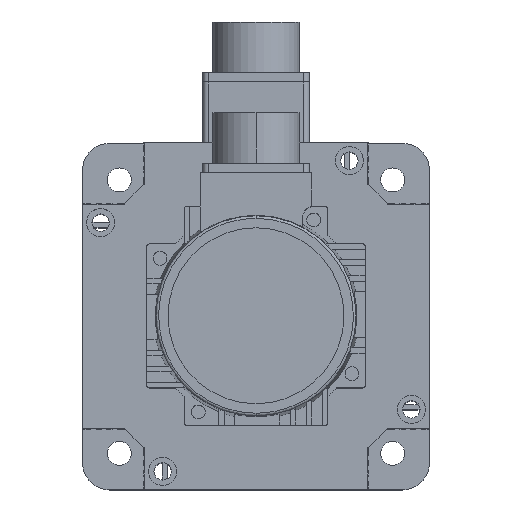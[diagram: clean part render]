
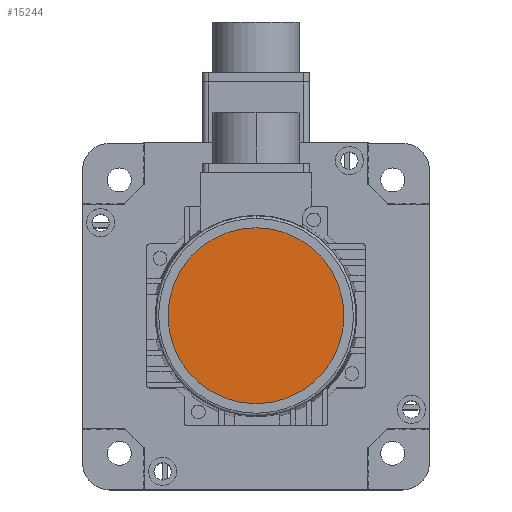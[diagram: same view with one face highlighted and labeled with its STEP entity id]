
A CAD part, top view. The second image highlights one B-rep face of the part: STEP entity #15244.
In plain terms, the highlighted planar face has unit normal (0, 0, 1).
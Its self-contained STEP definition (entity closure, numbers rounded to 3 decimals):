
#3797 = CARTESIAN_POINT ( 'NONE',  ( -60.288, -2.493, 137.25 ) ) ;
#7038 = CARTESIAN_POINT ( 'NONE',  ( -60.288, -2.493, 137.25 ) ) ;
#9551 = DIRECTION ( 'NONE',  ( 1., 0., 0. ) ) ;
#9647 = DIRECTION ( 'NONE',  ( 0., 0., 1. ) ) ;
#11205 = AXIS2_PLACEMENT_3D ( 'NONE', #3797, #29040, #24221 ) ;
#11576 = DIRECTION ( 'NONE',  ( 0., 0., 1. ) ) ;
#11751 = CARTESIAN_POINT ( 'NONE',  ( -60.288, -2.493, 137.25 ) ) ;
#15244 = ADVANCED_FACE ( 'NONE', ( #27381 ), #16112, .T. ) ;
#15347 = ORIENTED_EDGE ( 'NONE', *, *, #19934, .T. ) ;
#16112 = PLANE ( 'NONE',  #25394 ) ;
#16124 = CIRCLE ( 'NONE', #11205, 33. ) ;
#16366 = VERTEX_POINT ( 'NONE', #24159 ) ;
#17341 = CARTESIAN_POINT ( 'NONE',  ( -27.288, -2.493, 137.25 ) ) ;
#17837 = EDGE_CURVE ( 'NONE', #26417, #16366, #24037, .T. ) ;
#19934 = EDGE_CURVE ( 'NONE', #16366, #26417, #16124, .T. ) ;
#22966 = ORIENTED_EDGE ( 'NONE', *, *, #17837, .T. ) ;
#24037 = CIRCLE ( 'NONE', #28058, 33. ) ;
#24159 = CARTESIAN_POINT ( 'NONE',  ( -93.288, -2.493, 137.25 ) ) ;
#24221 = DIRECTION ( 'NONE',  ( 1., 0., 0. ) ) ;
#25394 = AXIS2_PLACEMENT_3D ( 'NONE', #7038, #11576, #27616 ) ;
#25461 = EDGE_LOOP ( 'NONE', ( #22966, #15347 ) ) ;
#26417 = VERTEX_POINT ( 'NONE', #17341 ) ;
#27381 = FACE_OUTER_BOUND ( 'NONE', #25461, .T. ) ;
#27616 = DIRECTION ( 'NONE',  ( 1., 0., 0. ) ) ;
#28058 = AXIS2_PLACEMENT_3D ( 'NONE', #11751, #9647, #9551 ) ;
#29040 = DIRECTION ( 'NONE',  ( 0., 0., 1. ) ) ;
